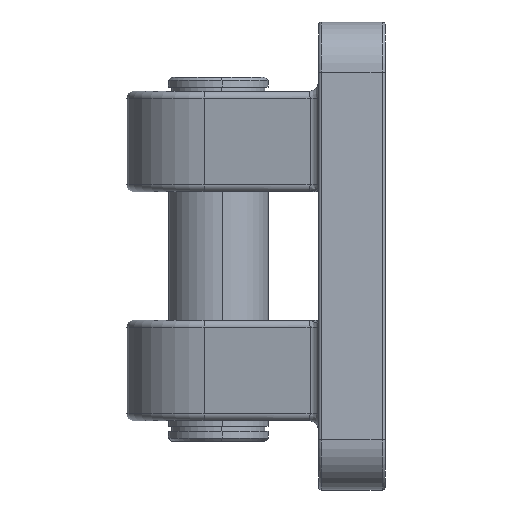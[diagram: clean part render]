
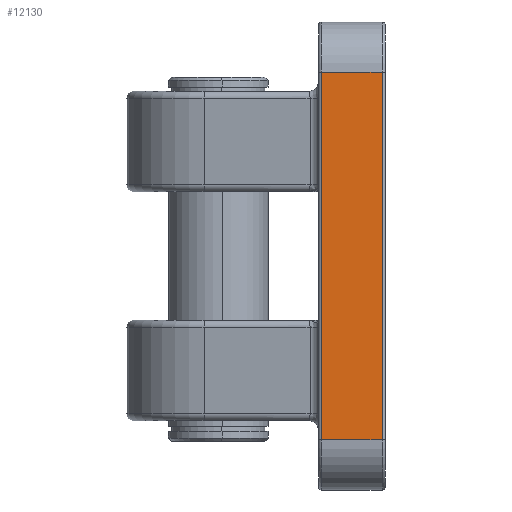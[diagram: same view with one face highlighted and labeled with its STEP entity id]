
A CAD part, left-side view. The second image highlights one B-rep face of the part: STEP entity #12130.
In plain terms, the highlighted planar face has unit normal (-1, 0, 0).
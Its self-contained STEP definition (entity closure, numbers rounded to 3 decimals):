
#517 = DIRECTION ( 'NONE',  ( 0., 0., -1. ) ) ;
#622 = VERTEX_POINT ( 'NONE', #12625 ) ;
#1371 = FACE_OUTER_BOUND ( 'NONE', #10754, .T. ) ;
#1942 = VERTEX_POINT ( 'NONE', #7038 ) ;
#2544 = CARTESIAN_POINT ( 'NONE',  ( -70., 20., -55. ) ) ;
#2625 = LINE ( 'NONE', #14647, #14774 ) ;
#3160 = ORIENTED_EDGE ( 'NONE', *, *, #11737, .T. ) ;
#3230 = VECTOR ( 'NONE', #11213, 1000. ) ;
#4019 = EDGE_CURVE ( 'NONE', #9966, #10004, #4355, .T. ) ;
#4355 = LINE ( 'NONE', #5414, #3230 ) ;
#5094 = VECTOR ( 'NONE', #12140, 1000. ) ;
#5414 = CARTESIAN_POINT ( 'NONE',  ( -70., 1., -55. ) ) ;
#6754 = LINE ( 'NONE', #13880, #9581 ) ;
#7038 = CARTESIAN_POINT ( 'NONE',  ( -70., 19., -55. ) ) ;
#7126 = CARTESIAN_POINT ( 'NONE',  ( -70., 1., 55. ) ) ;
#7565 = DIRECTION ( 'NONE',  ( 1., 0., 0. ) ) ;
#7667 = EDGE_CURVE ( 'NONE', #622, #10004, #2625, .T. ) ;
#8555 = DIRECTION ( 'NONE',  ( 0., -1., 0. ) ) ;
#9338 = ORIENTED_EDGE ( 'NONE', *, *, #10316, .T. ) ;
#9581 = VECTOR ( 'NONE', #11615, 1000. ) ;
#9601 = AXIS2_PLACEMENT_3D ( 'NONE', #9890, #7565, #517 ) ;
#9890 = CARTESIAN_POINT ( 'NONE',  ( -70., 20., -55. ) ) ;
#9903 = ORIENTED_EDGE ( 'NONE', *, *, #4019, .T. ) ;
#9966 = VERTEX_POINT ( 'NONE', #11853 ) ;
#10004 = VERTEX_POINT ( 'NONE', #7126 ) ;
#10316 = EDGE_CURVE ( 'NONE', #622, #1942, #6754, .T. ) ;
#10754 = EDGE_LOOP ( 'NONE', ( #3160, #9903, #14627, #9338 ) ) ;
#11213 = DIRECTION ( 'NONE',  ( 0., 0., 1. ) ) ;
#11615 = DIRECTION ( 'NONE',  ( 0., 0., -1. ) ) ;
#11737 = EDGE_CURVE ( 'NONE', #1942, #9966, #14106, .T. ) ;
#11853 = CARTESIAN_POINT ( 'NONE',  ( -70., 1., -55. ) ) ;
#12130 = ADVANCED_FACE ( 'NONE', ( #1371 ), #12370, .F. ) ;
#12140 = DIRECTION ( 'NONE',  ( 0., -1., 0. ) ) ;
#12370 = PLANE ( 'NONE',  #9601 ) ;
#12625 = CARTESIAN_POINT ( 'NONE',  ( -70., 19., 55. ) ) ;
#13880 = CARTESIAN_POINT ( 'NONE',  ( -70., 19., -55. ) ) ;
#14106 = LINE ( 'NONE', #2544, #5094 ) ;
#14627 = ORIENTED_EDGE ( 'NONE', *, *, #7667, .F. ) ;
#14647 = CARTESIAN_POINT ( 'NONE',  ( -70., 20., 55. ) ) ;
#14774 = VECTOR ( 'NONE', #8555, 1000. ) ;
